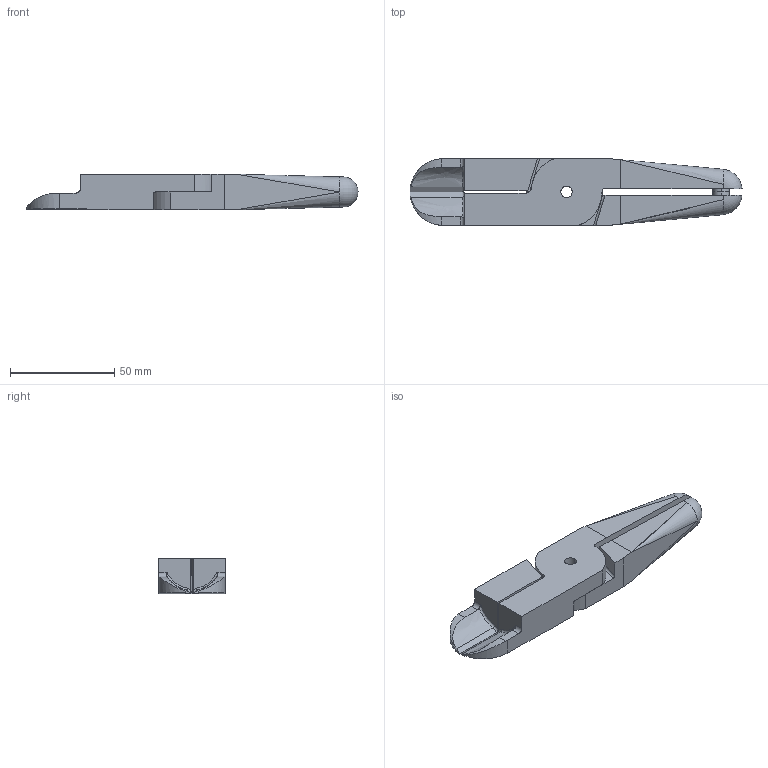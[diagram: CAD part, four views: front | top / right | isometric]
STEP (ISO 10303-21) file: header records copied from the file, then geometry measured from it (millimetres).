
FILE_DESCRIPTION (( 'STEP AP214' ), '1' );
FILE_NAME ('N30AJL.STEP', '2019-11-29T05:21:51', ( '微软用户' ), ( '微软中国' ), 'SwSTEP 2.0', 'SolidWorks 2016', '' );
FILE_SCHEMA (( 'AUTOMOTIVE_DESIGN' ));
Length unit declared in the file: millimetre
Products named in the file (1): N30AJL
Bounding box: 159 x 32 x 17 mm (x, y, z)
Surface area: 19657 mm2 (no closed solid volume)
Topology: 0 solids, 5 shells, 78 faces, 237 edges, 155 vertices
Faces by surface type: plane 40, cylinder 25, bspline 13
Entity records: 6539 total; most frequent: CARTESIAN_POINT 4193, ORIENTED_EDGE 432, DIRECTION 329, EDGE_CURVE 229, VERTEX_POINT 155, VECTOR 129, LINE 129, AXIS2_PLACEMENT_3D 100
